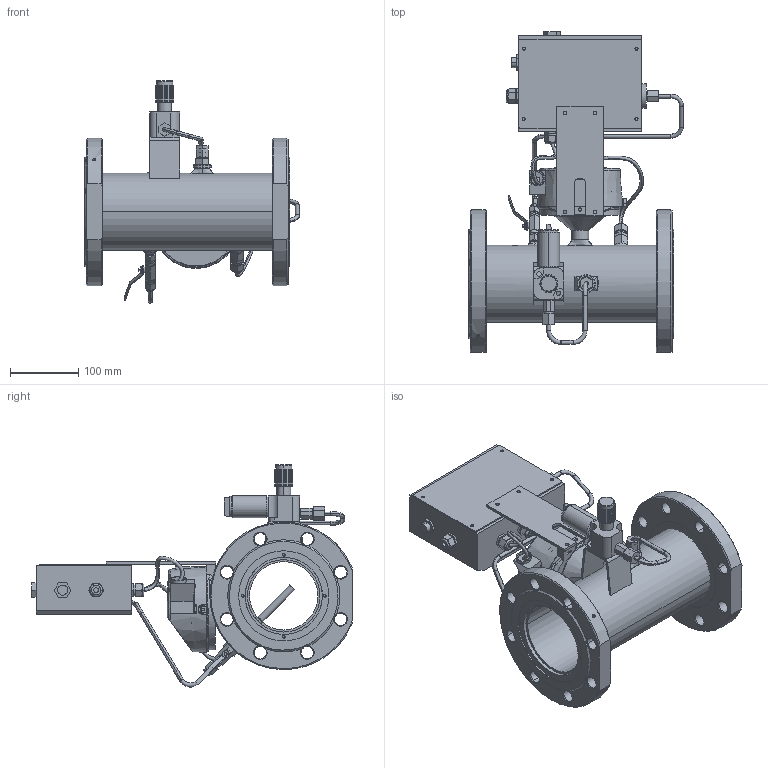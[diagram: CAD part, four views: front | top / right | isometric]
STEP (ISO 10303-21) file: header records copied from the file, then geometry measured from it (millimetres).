
FILE_DESCRIPTION((''),'2;1');
FILE_NAME('SG_SUPERFLOW_DY100_R_ASM','2020-12-23T',('solovki'),(''),'CREO PARAMETRIC BY PTC INC, 2018360','CREO PARAMETRIC BY PTC INC, 2018360','');
FILE_SCHEMA(('AUTOMOTIVE_DESIGN { 1 0 10303 214 1 1 1 1 }'));
Length unit declared in the file: millimetre
Products named in the file (28): 203_AF5; 204_AF2; 205_AF2; 206_AF1; 207_AF1; 208_AF2; 208_AF3; 209; 202_AF1_ASM; 210; 211; 212; 213; 214; 215; 201_AF1_ASM; 218; 219; 220; 221; 222; 223; 224; 225; 226; 227; 228; SG_SUPERFLOW_DY100_R_ASM
Assembly tree (30 placements, depth 4):
  SG_SUPERFLOW_DY100_R_ASM
    201_AF1_ASM
      202_AF1_ASM
        203_AF5
        204_AF2
        205_AF2
        206_AF1
        207_AF1
        208_AF2
        208_AF3
        209
      210
      211
      212
      213  x2
      214
      215
    218
    219
    220
    221
    222
    223
    224
    225
    213
    226
    227  x2
    228
Bounding box: 314 x 468.5 x 325.11 mm (x, y, z)
Volume: 4548431.6 mm3; surface area: 773171 mm2
Topology: 28 solids, 58 shells, 1339 faces, 3278 edges, 2059 vertices
Faces by surface type: plane 526, cylinder 496, cone 203, torus 49, bspline 42, sphere 22, extrusion 1
Entity records: 62569 total; most frequent: CARTESIAN_POINT 11817, DIRECTION 6705, ORIENTED_EDGE 6058, PRESENTATION_STYLE_ASSIGNMENT 4408, STYLED_ITEM 4408, EDGE_CURVE 3102, CURVE_STYLE 3091, AXIS2_PLACEMENT_3D 2597
